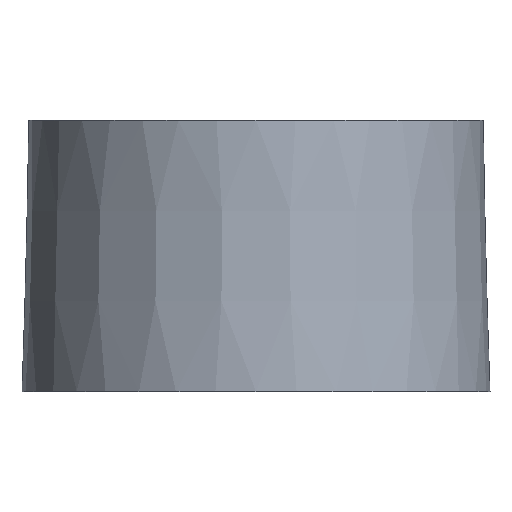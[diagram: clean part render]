
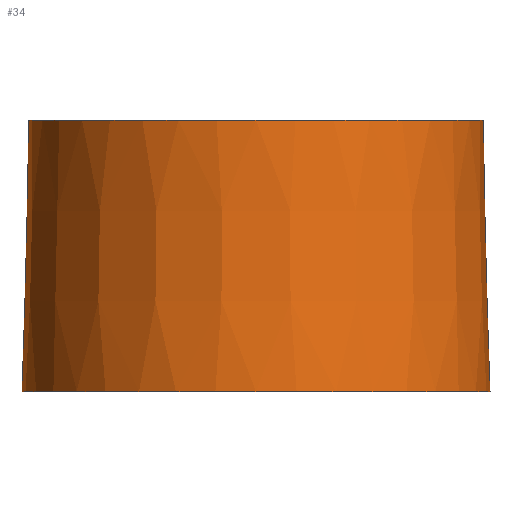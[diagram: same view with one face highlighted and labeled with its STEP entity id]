
A CAD part, front view. The second image highlights one B-rep face of the part: STEP entity #34.
In plain terms, the highlighted conical face has half-angle 1.43 degrees and reference radius 34.5 mm.
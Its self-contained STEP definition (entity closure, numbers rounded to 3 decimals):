
#34 = ADVANCED_FACE( '', ( #65, #66 ), #67, .T. );
#65 = FACE_BOUND( '', #88, .T. );
#66 = FACE_OUTER_BOUND( '', #89, .T. );
#67 = CONICAL_SURFACE( '', #90, 34.5, 0.025 );
#88 = EDGE_LOOP( '', ( #111 ) );
#89 = EDGE_LOOP( '', ( #112 ) );
#90 = AXIS2_PLACEMENT_3D( '', #113, #114, #115 );
#111 = ORIENTED_EDGE( '', *, *, #122, .T. );
#112 = ORIENTED_EDGE( '', *, *, #117, .F. );
#113 = CARTESIAN_POINT( '', ( 0., 0., -40. ) );
#114 = DIRECTION( '', ( 0., 0., -1. ) );
#115 = DIRECTION( '', ( 0., 1., 0. ) );
#117 = EDGE_CURVE( '', #125, #125, #126, .T. );
#122 = EDGE_CURVE( '', #133, #133, #134, .T. );
#125 = VERTEX_POINT( '', #137 );
#126 = CIRCLE( '', #138, 34.5 );
#133 = VERTEX_POINT( '', #145 );
#134 = CIRCLE( '', #146, 33.501 );
#137 = CARTESIAN_POINT( '', ( 0., 34.5, -40. ) );
#138 = AXIS2_PLACEMENT_3D( '', #148, #149, #150 );
#145 = CARTESIAN_POINT( '', ( 0., 33.501, 0. ) );
#146 = AXIS2_PLACEMENT_3D( '', #157, #158, #159 );
#148 = CARTESIAN_POINT( '', ( 0., 0., -40. ) );
#149 = DIRECTION( '', ( 0., 0., -1. ) );
#150 = DIRECTION( '', ( 0., 1., 0. ) );
#157 = CARTESIAN_POINT( '', ( 0., 0., 0. ) );
#158 = DIRECTION( '', ( 0., 0., -1. ) );
#159 = DIRECTION( '', ( 0., 1., 0. ) );
